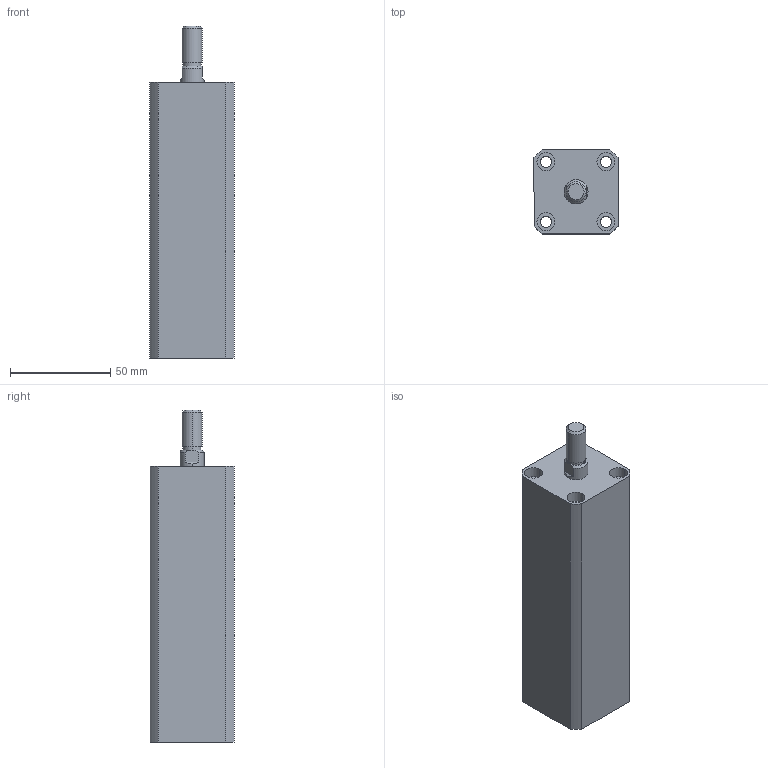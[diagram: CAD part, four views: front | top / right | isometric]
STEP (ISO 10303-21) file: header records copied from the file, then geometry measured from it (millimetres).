
FILE_DESCRIPTION (( 'STEP AP203' ), '1' );
FILE_NAME ('HTB-SDMB20-95W.STEP', '2019-10-09T00:11:16', ( '微软用户' ), ( '微软中国' ), 'SwSTEP 2.0', 'SolidWorks 2012', '' );
FILE_SCHEMA (( 'CONFIG_CONTROL_DESIGN' ));
Length unit declared in the file: millimetre
Products named in the file (3): HTB-SDMB20-95W活塞杆; HTB-SDMB20-95掛极; HTB-SDMB20-95W
Assembly tree (2 placements, depth 2):
  HTB-SDMB20-95W
    HTB-SDMB20-95掛极
    HTB-SDMB20-95W活塞杆
Bounding box: 42 x 42 x 166 mm (x, y, z)
Volume: 206963.6 mm3; surface area: 50389.4 mm2
Topology: 2 solids, 2 shells, 140 faces, 332 edges, 218 vertices
Faces by surface type: plane 66, cylinder 48, bspline 16, torus 6, cone 4
Entity records: 5129 total; most frequent: CARTESIAN_POINT 1587, ORIENTED_EDGE 664, DIRECTION 662, EDGE_CURVE 332, AXIS2_PLACEMENT_3D 241, VERTEX_POINT 218, VECTOR 180, LINE 180
